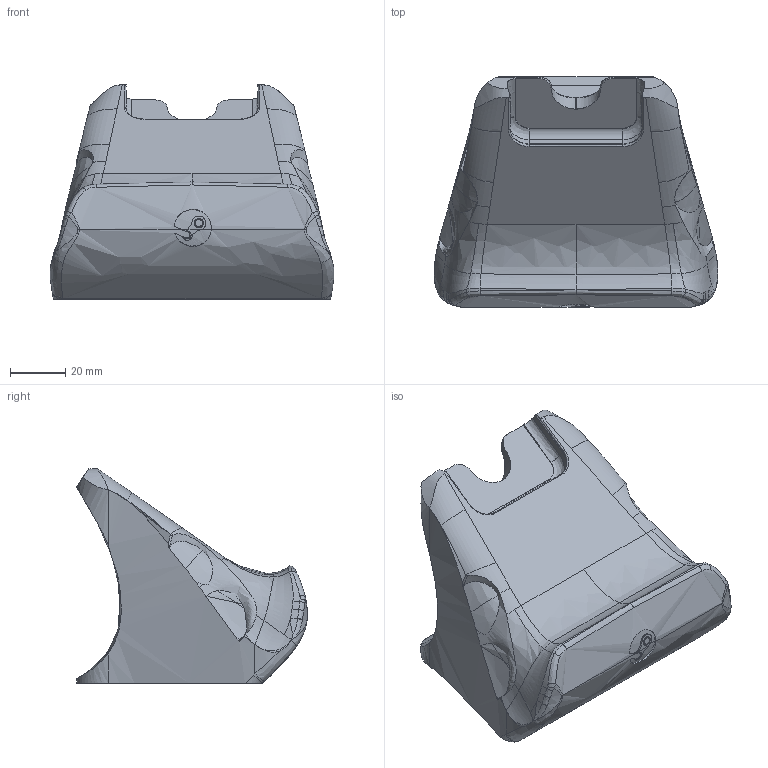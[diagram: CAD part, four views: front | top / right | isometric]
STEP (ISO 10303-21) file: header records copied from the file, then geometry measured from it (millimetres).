
FILE_DESCRIPTION(/* description */ (''),/* implementation_level */ '2;1');
FILE_NAME(/* name */ 'Steamdeck controller dock - Hollow.step',/* time_stamp */ '2026-05-16T17:04:47+01:00',/* author */ (''),/* organization */ (''),/* preprocessor_version */ 'ST-DEVELOPER v20.1',/* originating_system */ 'Autodesk Translation Framework v15.8.0.0',/* authorisation */ '');
FILE_SCHEMA (('AUTOMOTIVE_DESIGN { 1 0 10303 214 3 1 1 }'));
Length unit declared in the file: millimetre
Products named in the file (1): Steamdeck controller dock
Bounding box: 103.15 x 83.81 x 77.9 mm (x, y, z)
Volume: 206612.6 mm3; surface area: 37917.7 mm2
Topology: 1 solids, 1 shells, 222 faces, 630 edges, 399 vertices
Faces by surface type: bspline 183, plane 29, cylinder 10
Entity records: 28485 total; most frequent: CARTESIAN_POINT 24174, ORIENTED_EDGE 1230, EDGE_CURVE 615, B_SPLINE_CURVE_WITH_KNOTS 425, VERTEX_POINT 399, DIRECTION 321, EDGE_LOOP 226, FACE_OUTER_BOUND 222
